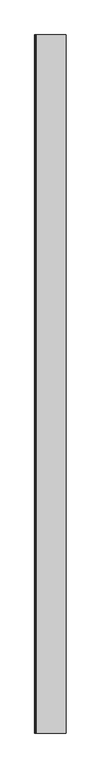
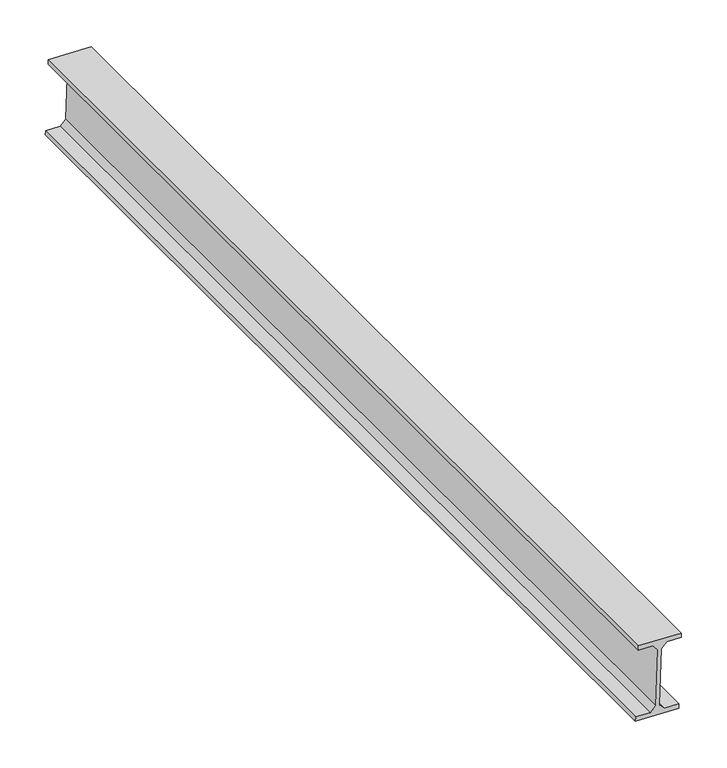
"""IFC4 building model written with IfcOpenShell, lengths in millimetres: beam geometry, Panne 155892 : Panne 155892."""

from ifc_helpers import new_model, si_unit, frame, origin, place, context, project, spatial, polyline, outline, extrude, source, transform, mapped, element, save


def beam_19b4b193(model_context):
    return source(origin(), model_context, "Body", "SweptSolid", [
        extrude(outline(polyline([(7902.800589, 3739.9831716), (7904.724411, 3685.0168282), (7899.0278991, 3684.8174502), (7898.3825442, 3703.25616), (7891.1419777, 3710.0070263), (7816.5876283, 3707.3976241), (7809.8367619, 3700.1570576), (7810.4821167, 3681.7183479), (7804.7856048, 3681.5189699), (7802.8617828, 3736.4853134), (7808.5582947, 3736.6846913), (7809.2036496, 3718.2459815), (7816.4442161, 3711.4951152), (7890.9985655, 3714.1045174), (7897.7494319, 3721.3450839), (7897.104077, 3739.7837937), (7902.800589, 3739.9831716)])), frame((0.0, -39755.0, 0.0), z_axis=(0.0, 1.0, 0.0), x_axis=(0.0, 0.0, 1.0)), (0.0, 0.0, 1.0), 1299.45),
    ])


if __name__ == "__main__":
    model = new_model("IFC4")
    model_context = context("Model", 3, world=origin())
    ifc_project = project(units=[si_unit("LENGTHUNIT", "METRE", prefix="MILLI")], contexts=[model_context])
    site = spatial("IfcSite", under=ifc_project)
    building = spatial("IfcBuilding", under=site)
    placement = place(None, origin())
    beam_shape = beam_19b4b193(model_context)
    element("IfcBeam", 1, ObjectType="Panne 155892 : Panne 155892", at=placement, inside=building, context=model_context, shape_type="MappedRepresentation", body=[
        mapped(beam_shape, transform((0.0, 0.0, 0.0), x_axis=(1.0, 0.0, 0.0), y_axis=(0.0, 1.0, 0.0), z_axis=(0.0, 0.0, 1.0))),
    ])
    save(model, "model.ifc")
